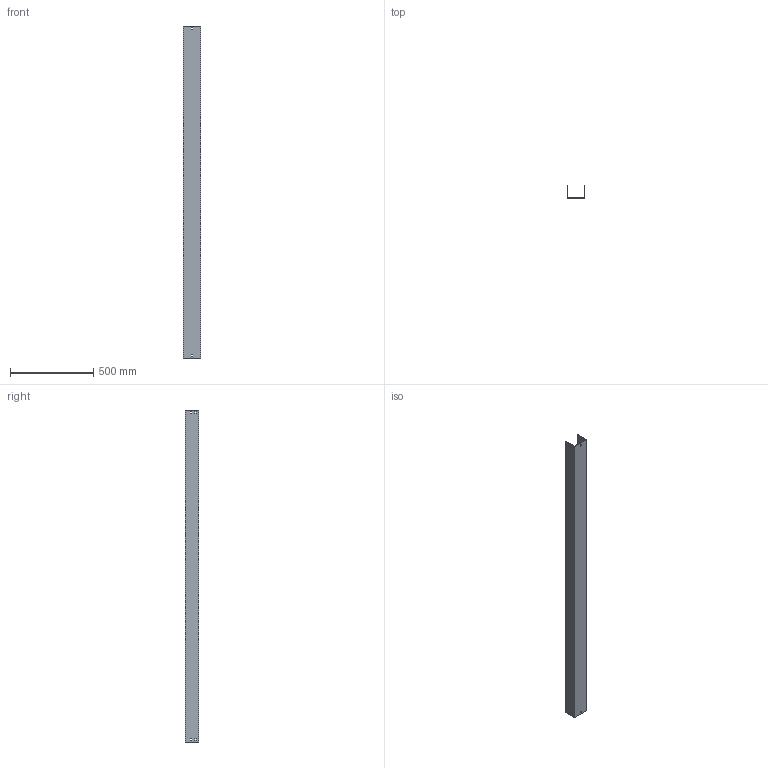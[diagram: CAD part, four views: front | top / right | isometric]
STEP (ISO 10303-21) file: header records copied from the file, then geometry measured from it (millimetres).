
FILE_DESCRIPTION (( 'STEP AP214' ), '1' );
FILE_NAME ('03F2C100.step', '2025-02-21T13:31:42', ( '' ), ( '' ), 'SwSTEP 2.0', 'SolidWorks 2023', '' );
FILE_SCHEMA (( 'AUTOMOTIVE_DESIGN' ));
Length unit declared in the file: millimetre
Products named in the file (1): 03F2C100
Bounding box: 104 x 79 x 2000 mm (x, y, z)
Volume: 1782630.5 mm3; surface area: 1035600 mm2
Topology: 1 solids, 1 shells, 50 faces, 144 edges, 96 vertices
Faces by surface type: plane 50
Entity records: 1671 total; most frequent: CARTESIAN_POINT 291, ORIENTED_EDGE 288, DIRECTION 246, LINE 144, VECTOR 144, EDGE_CURVE 144, VERTEX_POINT 96, EDGE_LOOP 70
